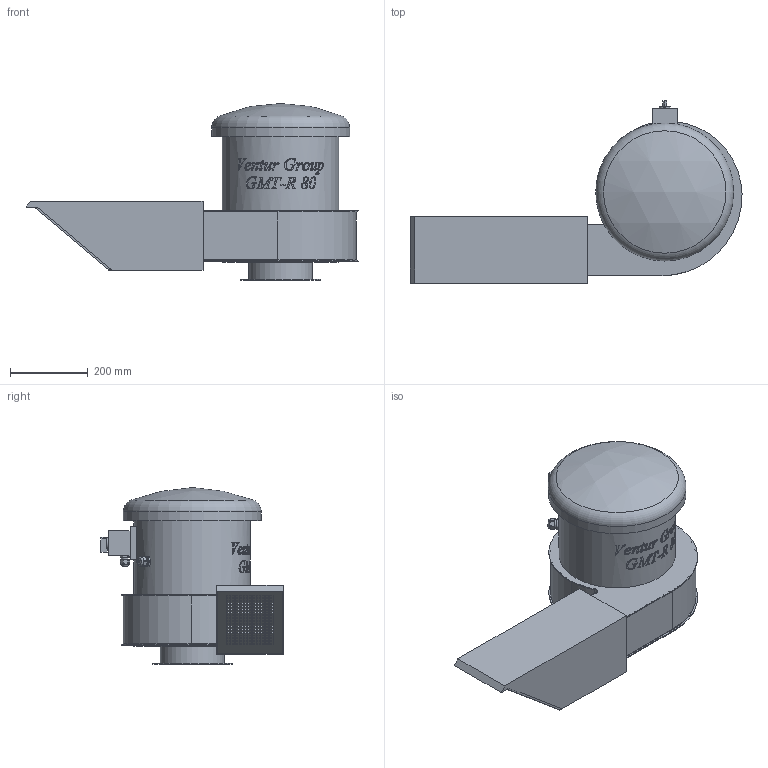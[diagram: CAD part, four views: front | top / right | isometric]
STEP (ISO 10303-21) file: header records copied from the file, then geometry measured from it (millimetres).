
FILE_DESCRIPTION(/* description */ (''),/* implementation_level */ '2;1');
FILE_NAME(/* name */ 'E:\Mariusz\Modele uproszczone\GMT-R\GMT-R_80 42552210\GMT-R_80 42552210\GMT-R_80 42552210.stp',/* time_stamp */ '2018-06-20T09:09:51+02:00',/* author */ ('M.Janczarek'),/* organization */ (''),/* preprocessor_version */ 'ST-DEVELOPER v16.5',/* originating_system */ 'Autodesk Inventor 2017',/* authorisation */ '');
FILE_SCHEMA (('AUTOMOTIVE_DESIGN { 1 0 10303 214 3 1 1 }'));
Length unit declared in the file: millimetre
Products named in the file (1): GMT-R_80 42552210
Bounding box: 854.54 x 469 x 455.5 mm (x, y, z)
Volume: 46325747.4 mm3; surface area: 1136763.2 mm2
Topology: 1 solids, 1 shells, 1718 faces, 4380 edges, 2908 vertices
Faces by surface type: plane 1203, bspline 396, cylinder 92, cone 14, torus 12, sphere 1
Full cylindrical faces by diameter (mm): 5 x1, 6 x8, 11.5 x2, 18 x2, 22.3 x1, 25 x1, 28 x1, 160 x1, 164 x1, 205 x1, 300 x2, 355 x1
Entity records: 59063 total; most frequent: CARTESIAN_POINT 18474, ORIENTED_EDGE 8704, DIRECTION 6586, EDGE_CURVE 4350, LINE 3252, VECTOR 3252, VERTEX_POINT 2904, EDGE_LOOP 2004
